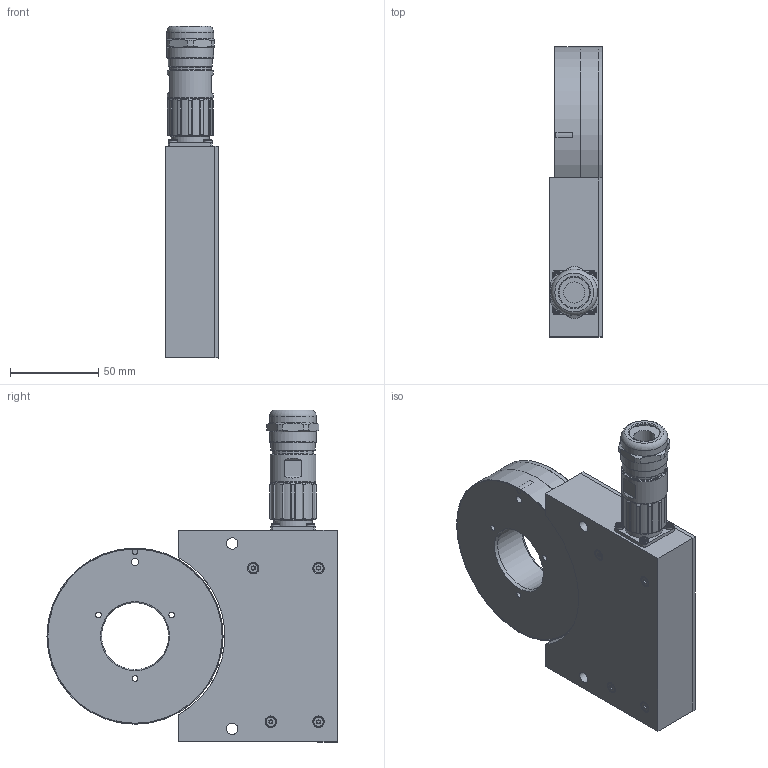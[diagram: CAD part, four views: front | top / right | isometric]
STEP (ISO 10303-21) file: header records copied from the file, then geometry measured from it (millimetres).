
FILE_DESCRIPTION(/* description */ (''),/* implementation_level */ '2;1');
FILE_NAME(/* name */ 'M:\__3D-Daten\Loeschen\Step\Baumer_MHGP100-B5-H38_CAD.stp',/* time_stamp */ '2018-07-31T09:01:35+02:00',/* author */ ('mbir'),/* organization */ (''),/* preprocessor_version */ 'ST-DEVELOPER v16.1',/* originating_system */ 'Autodesk Inventor 2016',/* authorisation */ '');
FILE_SCHEMA (('AUTOMOTIVE_DESIGN { 1 0 10303 214 3 1 1 }'));
Length unit declared in the file: centimetre
Products named in the file (1): Baumer_MHGP100-B5-H38_CAD
Bounding box: 30 x 164.43 x 188.15 mm (x, y, z)
Volume: 450838.3 mm3; surface area: 85187.4 mm2
Topology: 2 solids, 6 shells, 535 faces, 1265 edges, 815 vertices
Faces by surface type: cylinder 289, plane 163, torus 46, cone 37
Full cylindrical faces by diameter (mm): 2.459 x1, 2.9 x9, 3 x10, 3.2 x5, 3.242 x3, 3.5 x4, 4.1 x1, 5 x4, 5.5 x9, 6 x5, 6.2 x3, 6.5 x4, 12 x1, 17 x1, 17.3 x2, 19.8 x1, 20 x1, 21 x1, 21.8 x1, 22 x1, 22.8 x1, 23 x4, 23.2 x3, 23.541 x1, 25.001 x1, 26.001 x1, 26.5 x2, 38 x1, 90 x1, 97.36 x2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
Entity records: 14611 total; most frequent: DIRECTION 2766, CARTESIAN_POINT 2607, ORIENTED_EDGE 2108, AXIS2_PLACEMENT_3D 1212, EDGE_CURVE 1054, EDGE_LOOP 797, VERTEX_POINT 777, CIRCLE 648
